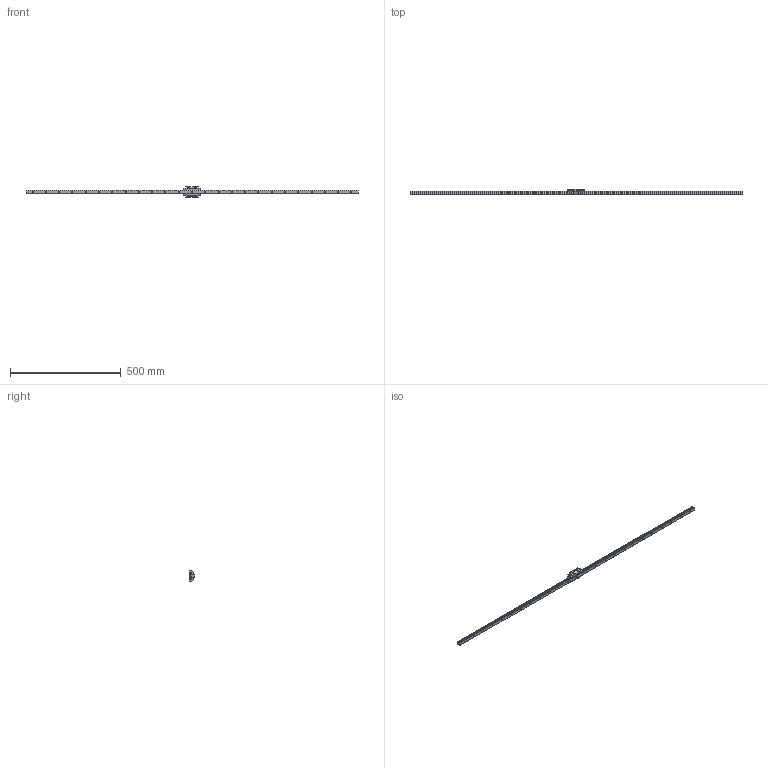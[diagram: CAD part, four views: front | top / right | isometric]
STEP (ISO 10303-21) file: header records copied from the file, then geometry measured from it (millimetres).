
FILE_DESCRIPTION( ( 'STEP AP214' ), '1' );
FILE_NAME( 'p:/temp/worker_88/temp/exporttempdir_3144_134_vlk9p/format_0/1xBM S 15-N-G3-KC-R1-1500-30-30-CN 1xBM W 15-B-G3-V0-R1-CN-S99-LN-( -1).stp', '2020-06-09T09:11:00', ( 'License CC BY-ND 4.0' ), ( 'CADENAS' ), ' ', 'PARTsolutions', ' ' );
FILE_SCHEMA( ( 'AUTOMOTIVE_DESIGN { 1 0 10303 214 1 1 1 1 }' ) );
Length unit declared in the file: millimetre
Products named in the file (4): 1xBM S 15-N-G3-KC-R1-1500-30-30-CN 1xBM W 15-B-G3-V0-R1-CN-S99-LN-( -1); _1xBM S 15-N-G3-KC-R1-1500-30-30-CN-(1); _1 BM W 15-B-G3-V0-R1-CN-S10-LN; _STB 15-K(0)
Assembly tree (4 placements, depth 2):
  1xBM S 15-N-G3-KC-R1-1500-30-30-CN 1xBM W 15-B-G3-V0-R1-CN-S99-LN-( -1)
    _1xBM S 15-N-G3-KC-R1-1500-30-30-CN-(1)
    _1 BM W 15-B-G3-V0-R1-CN-S10-LN
    _STB 15-K(0)  x2
Bounding box: 1500 x 24 x 47 mm (x, y, z)
Volume: 315541.5 mm3; surface area: 115228 mm2
Topology: 4 solids, 4 shells, 434 faces, 1097 edges, 720 vertices
Faces by surface type: plane 232, cylinder 176, cone 22, torus 4
Full cylindrical faces by diameter (mm): 2.013 x4, 2.459 x4, 2.46 x2, 3.1 x4, 4.134 x6, 4.5 x29, 5 x4, 7.5 x6, 8 x27
Entity records: 11905 total; most frequent: DIRECTION 1657, CARTESIAN_POINT 1549, ORIENTED_EDGE 1398, EDGE_CURVE 699, AXIS2_PLACEMENT_3D 630, VERTEX_POINT 522, EDGE_LOOP 519, FACE_OUTER_BOUND 401
